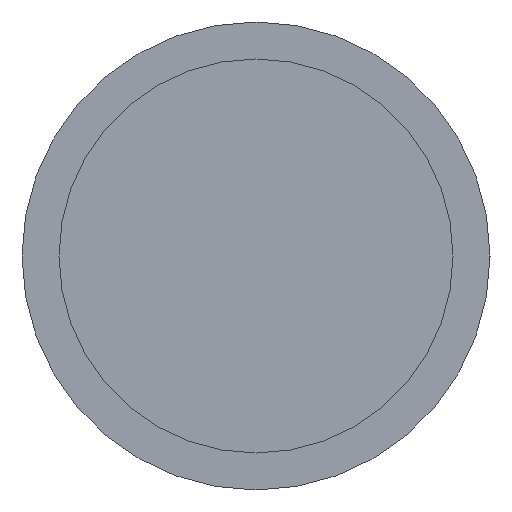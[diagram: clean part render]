
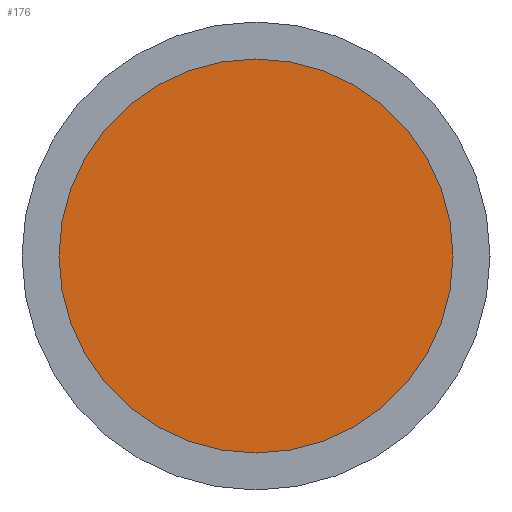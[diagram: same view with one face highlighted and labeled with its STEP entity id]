
A CAD part, left-side view. The second image highlights one B-rep face of the part: STEP entity #176.
In plain terms, the highlighted planar face has unit normal (-1, 0, 0).
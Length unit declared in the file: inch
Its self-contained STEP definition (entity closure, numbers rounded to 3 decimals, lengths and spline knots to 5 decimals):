
#61=FACE_OUTER_BOUND('',#69,.T.);
#69=EDGE_LOOP('',(#125,#126));
#78=CIRCLE('',#205,0.442);
#79=CIRCLE('',#206,0.442);
#92=VERTEX_POINT('',#318);
#93=VERTEX_POINT('',#319);
#106=EDGE_CURVE('',#92,#93,#78,.T.);
#107=EDGE_CURVE('',#93,#92,#79,.T.);
#125=ORIENTED_EDGE('',*,*,#106,.F.);
#126=ORIENTED_EDGE('',*,*,#107,.F.);
#163=PLANE('',#204);
#176=ADVANCED_FACE('',(#61),#163,.T.);
#204=AXIS2_PLACEMENT_3D('',#317,#241,#242);
#205=AXIS2_PLACEMENT_3D('',#320,#243,#244);
#206=AXIS2_PLACEMENT_3D('',#321,#245,#246);
#241=DIRECTION('center_axis',(-1.,0.,0.));
#242=DIRECTION('ref_axis',(0.,0.,1.));
#243=DIRECTION('center_axis',(1.,0.,0.));
#244=DIRECTION('ref_axis',(0.,1.,0.));
#245=DIRECTION('center_axis',(1.,0.,0.));
#246=DIRECTION('ref_axis',(0.,1.,0.));
#317=CARTESIAN_POINT('Origin',(1.917,0.221,0.));
#318=CARTESIAN_POINT('',(1.917,0.442,0.));
#319=CARTESIAN_POINT('',(1.917,-0.442,0.));
#320=CARTESIAN_POINT('Origin',(1.917,0.,0.));
#321=CARTESIAN_POINT('Origin',(1.917,0.,0.));
